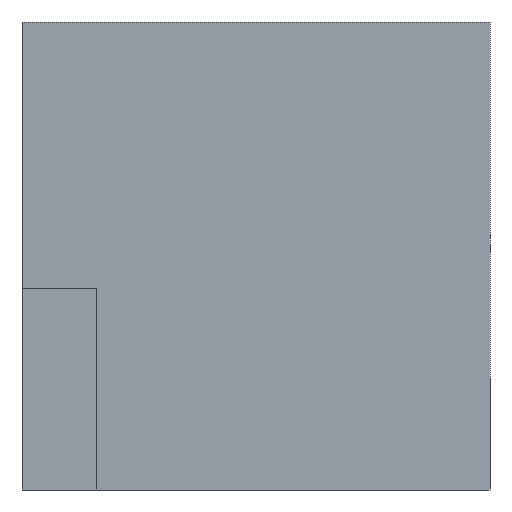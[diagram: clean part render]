
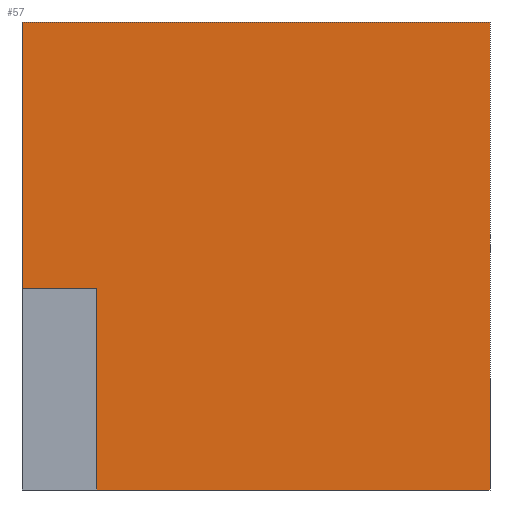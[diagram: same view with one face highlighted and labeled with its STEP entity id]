
A CAD part, front view. The second image highlights one B-rep face of the part: STEP entity #57.
In plain terms, the highlighted planar face has unit normal (0, -1, 0).
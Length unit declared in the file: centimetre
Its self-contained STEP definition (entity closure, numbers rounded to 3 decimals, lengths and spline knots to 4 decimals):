
#15 = DIRECTION ( 'NONE',  ( 0., 0., 1. ) ) ;
#27 = VECTOR ( 'NONE', #525, 100. ) ;
#35 = CARTESIAN_POINT ( 'NONE',  ( 0., 0., 1000. ) ) ;
#45 = VECTOR ( 'NONE', #498, 100. ) ;
#57 = ADVANCED_FACE ( 'NONE', ( #572 ), #474, .F. ) ;
#63 = CARTESIAN_POINT ( 'NONE',  ( 0., 0., 0. ) ) ;
#93 = DIRECTION ( 'NONE',  ( 1., 0., 0. ) ) ;
#109 = EDGE_CURVE ( 'NONE', #500, #505, #428, .T. ) ;
#119 = CARTESIAN_POINT ( 'NONE',  ( 160.1254, 0., 431.3056 ) ) ;
#120 = EDGE_LOOP ( 'NONE', ( #659, #414, #143, #540, #239, #311 ) ) ;
#143 = ORIENTED_EDGE ( 'NONE', *, *, #425, .F. ) ;
#145 = CARTESIAN_POINT ( 'NONE',  ( 1000., 0., 1000. ) ) ;
#172 = VERTEX_POINT ( 'NONE', #340 ) ;
#176 = LINE ( 'NONE', #63, #263 ) ;
#192 = LINE ( 'NONE', #35, #360 ) ;
#193 = CARTESIAN_POINT ( 'NONE',  ( 0., 0., 431.3056 ) ) ;
#194 = VERTEX_POINT ( 'NONE', #471 ) ;
#199 = AXIS2_PLACEMENT_3D ( 'NONE', #519, #625, #15 ) ;
#202 = EDGE_CURVE ( 'NONE', #172, #419, #176, .T. ) ;
#207 = DIRECTION ( 'NONE',  ( 0., 0., 1. ) ) ;
#210 = EDGE_CURVE ( 'NONE', #243, #419, #333, .T. ) ;
#221 = EDGE_CURVE ( 'NONE', #194, #243, #192, .T. ) ;
#239 = ORIENTED_EDGE ( 'NONE', *, *, #210, .F. ) ;
#243 = VERTEX_POINT ( 'NONE', #145 ) ;
#263 = VECTOR ( 'NONE', #273, 100. ) ;
#273 = DIRECTION ( 'NONE',  ( 1., 0., 0. ) ) ;
#311 = ORIENTED_EDGE ( 'NONE', *, *, #221, .F. ) ;
#333 = LINE ( 'NONE', #371, #27 ) ;
#340 = CARTESIAN_POINT ( 'NONE',  ( 160.1254, 0., 0. ) ) ;
#349 = VECTOR ( 'NONE', #207, 100. ) ;
#360 = VECTOR ( 'NONE', #93, 100. ) ;
#371 = CARTESIAN_POINT ( 'NONE',  ( 1000., 0., 1000. ) ) ;
#414 = ORIENTED_EDGE ( 'NONE', *, *, #109, .F. ) ;
#415 = CARTESIAN_POINT ( 'NONE',  ( 1000., 0., 0. ) ) ;
#419 = VERTEX_POINT ( 'NONE', #415 ) ;
#425 = EDGE_CURVE ( 'NONE', #172, #500, #553, .T. ) ;
#428 = LINE ( 'NONE', #119, #546 ) ;
#448 = LINE ( 'NONE', #495, #45 ) ;
#471 = CARTESIAN_POINT ( 'NONE',  ( 0., 0., 1000. ) ) ;
#474 = PLANE ( 'NONE',  #199 ) ;
#495 = CARTESIAN_POINT ( 'NONE',  ( 0., 0., 1000. ) ) ;
#498 = DIRECTION ( 'NONE',  ( 0., 0., -1. ) ) ;
#500 = VERTEX_POINT ( 'NONE', #592 ) ;
#505 = VERTEX_POINT ( 'NONE', #193 ) ;
#509 = CARTESIAN_POINT ( 'NONE',  ( 160.1254, 0., 0. ) ) ;
#519 = CARTESIAN_POINT ( 'NONE',  ( 0., 0., 1000. ) ) ;
#525 = DIRECTION ( 'NONE',  ( 0., 0., -1. ) ) ;
#540 = ORIENTED_EDGE ( 'NONE', *, *, #202, .T. ) ;
#546 = VECTOR ( 'NONE', #614, 100. ) ;
#553 = LINE ( 'NONE', #509, #349 ) ;
#572 = FACE_OUTER_BOUND ( 'NONE', #120, .T. ) ;
#583 = EDGE_CURVE ( 'NONE', #194, #505, #448, .T. ) ;
#592 = CARTESIAN_POINT ( 'NONE',  ( 160.1254, 0., 431.3056 ) ) ;
#614 = DIRECTION ( 'NONE',  ( -1., 0., 0. ) ) ;
#625 = DIRECTION ( 'NONE',  ( 0., 1., 0. ) ) ;
#659 = ORIENTED_EDGE ( 'NONE', *, *, #583, .T. ) ;
